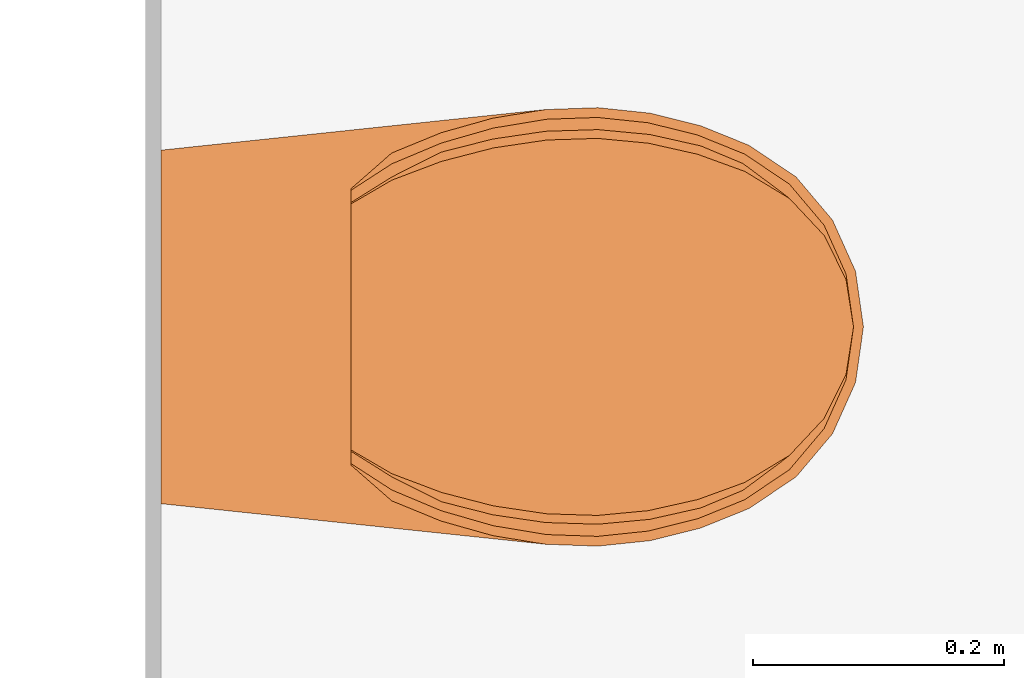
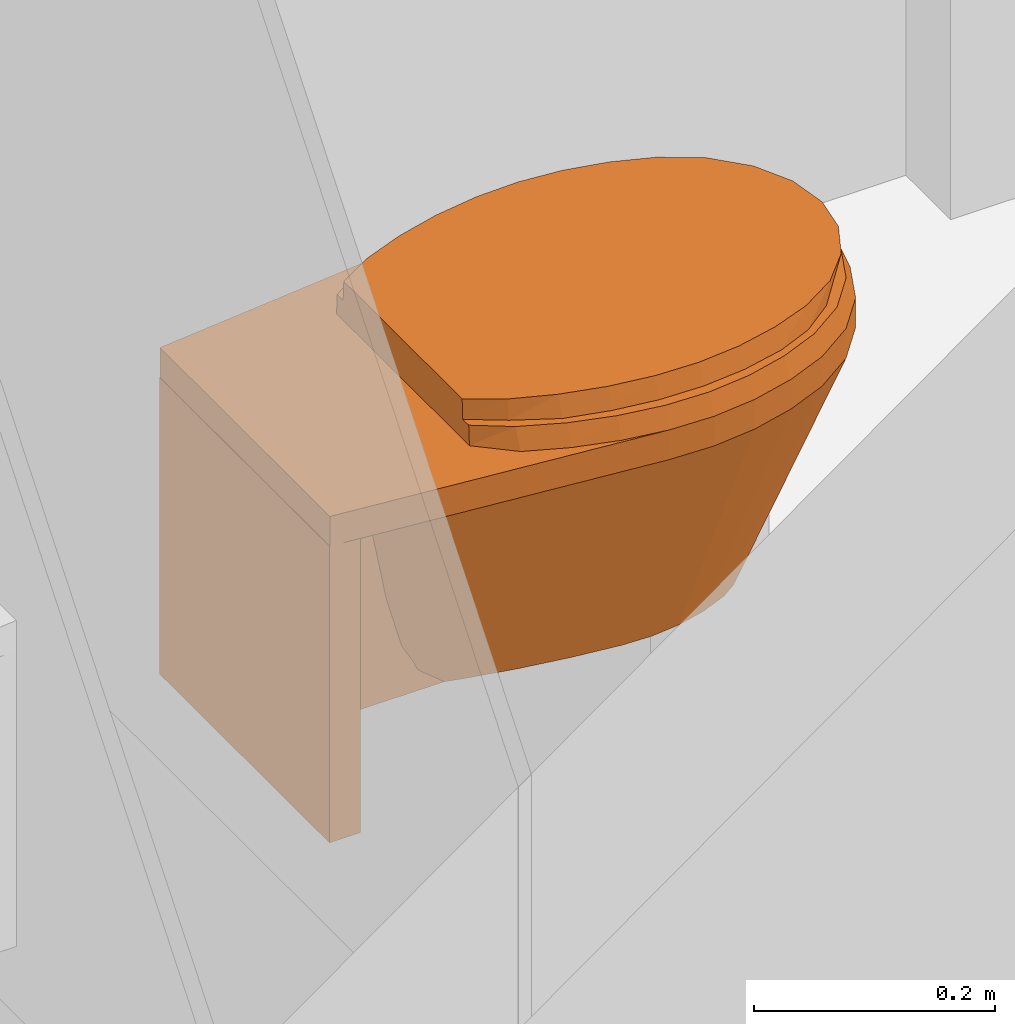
# One storey, part 90 of 99: 1 proxy.
"""IFC2X3 building model written with IfcOpenShell, lengths in millimetres."""

from ifc_helpers import new_model, entity, si_unit, converted_unit, derived_unit, money_unit, direction, frame, origin_with_axes, place, context, subcontext, project, spatial, open_shell, faceted_brep, surface_model, source, transform, mapped, type_object, type_shapes, element, save


model = new_model("IFC2X3")

# Units and contexts
model_context = context("Model", 3, precision=0.01, world=origin_with_axes(), true_north=direction((0.0, 1.0)))
body_context = subcontext(model_context, "Body", "Model", "MODEL_VIEW")
ifc_project = project(units=[si_unit("LENGTHUNIT", "METRE", prefix="MILLI"), si_unit("AREAUNIT", "SQUARE_METRE"), si_unit("VOLUMEUNIT", "CUBIC_METRE"), converted_unit("PLANEANGLEUNIT", "DEGREE", entity("IfcPlaneAngleMeasure", 0.0174532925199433), si_unit("PLANEANGLEUNIT", "RADIAN"), dimensions=[0, 0, 0, 0, 0, 0, 0]), money_unit("EUR"), converted_unit("TIMEUNIT", "Year", entity("IfcTimeMeasure", 31557600.0), si_unit("TIMEUNIT", "SECOND"), dimensions=[0, 0, 1, 0, 0, 0, 0]), si_unit("MASSUNIT", "GRAM", prefix="KILO"), si_unit("THERMODYNAMICTEMPERATUREUNIT", "DEGREE_CELSIUS"), si_unit("LUMINOUSINTENSITYUNIT", "LUMEN"), si_unit("ENERGYUNIT", "JOULE", prefix="MEGA"), derived_unit("THERMALCONDUCTANCEUNIT", [(si_unit("POWERUNIT", "WATT"), 1), (si_unit("LENGTHUNIT", "METRE"), -1), (si_unit("THERMODYNAMICTEMPERATUREUNIT", "KELVIN"), -1)]), derived_unit("SPECIFICHEATCAPACITYUNIT", [(si_unit("ENERGYUNIT", "JOULE"), 1), (si_unit("MASSUNIT", "GRAM", prefix="KILO"), -1), (si_unit("THERMODYNAMICTEMPERATUREUNIT", "KELVIN"), -1)]), derived_unit("MASSDENSITYUNIT", [(si_unit("MASSUNIT", "GRAM", prefix="KILO"), 1), (si_unit("VOLUMEUNIT", "CUBIC_METRE"), -1)])], contexts=[model_context])

# Site, building, storey
site_placement = place(None, origin_with_axes())
site = spatial("IfcSite", under=ifc_project, at=site_placement, Name="Site", CompositionType="ELEMENT")
building_placement = place(site_placement, origin_with_axes())
building = spatial("IfcBuilding", under=site, at=building_placement, Name="Naam gebouw", CompositionType="ELEMENT")
storey_placement = place(building_placement, frame((0.0, 0.0, 7650.0), z_axis=(0.0, 0.0, 1.0), x_axis=(1.0, 0.0, 0.0)))
storey = spatial("IfcBuildingStorey", under=building, at=storey_placement, Name="2e verdieping N", CompositionType="ELEMENT", Elevation=7650.0)

# Proxy
building_element_proxy_type = type_object("IfcBuildingElementProxyType", Name="Toilet 27", PredefinedType="NOTDEFINED")
shared_shape = source(origin_with_axes(), body_context, "Body", "SurfaceModel", [
    faceted_brep([(141.0283315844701, -29.31865370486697, 69.99999999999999), (-141.0283315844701, -29.31865370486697, 69.99999999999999), (-141.0283315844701, 0.4949050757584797, 69.99999999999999), (141.0283315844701, 0.4949050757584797, 69.99999999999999), (141.0283315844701, -29.31865370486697, 370.0), (-141.0283315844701, -29.31865370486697, 370.0), (-141.0283315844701, 0.4949050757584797, 370.0), (141.0283315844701, 0.4949050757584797, 370.0)], [[[0, 1, 2, 3]], [[1, 0, 4, 5]], [[2, 1, 5, 6]], [[3, 2, 6, 7]], [[0, 3, 7, 4]], [[5, 4, 7, 6]]]),
    faceted_brep([(0.0, -70.89167385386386, 370.0), (29.22322490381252, -74.34010881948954, 370.0), (48.96817068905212, -81.5929972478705, 370.0), (48.96817068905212, -29.31865370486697, 370.0), (-48.96817068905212, -29.31865370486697, 370.0), (-48.96817068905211, -81.5929972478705, 370.0), (-29.22322490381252, -74.34010881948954, 370.0), (13.70129415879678, -104.9506834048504, 120.0), (48.96817068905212, -91.42153264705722, 305.9289314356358), (25.9903462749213, -111.5027098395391, 120.0), (48.96817068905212, -132.9294031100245, 150.8349994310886), (48.96817068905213, -162.8654130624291, 120.0), (48.96817068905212, -29.31865370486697, 120.0), (48.96817068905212, -98.32654517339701, 277.0091093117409), (48.96817068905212, -115.6023982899, 192.7960154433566), (48.96817068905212, -128.1614437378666, 166.4745945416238), (-48.96817068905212, -29.31865370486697, 120.0), (-48.96817068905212, -88.2509938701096, 324.1614695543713), (-48.96817068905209, -162.865413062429, 120.0), (-48.96817068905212, -136.958898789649, 141.3134093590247), (-48.96817068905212, -132.9294031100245, 150.8349994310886), (-48.96817068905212, -121.830119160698, 170.4964192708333), (-48.96817068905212, -115.6023982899, 192.7960154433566), (-48.96817068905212, -107.0876370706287, 223.4625696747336), (-48.96817068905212, -91.42153264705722, 305.9289314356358), (-13.70129415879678, -104.9506834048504, 120.0), (0.0, -102.6888280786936, 120.0), (35.59888072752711, -121.6691333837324, 120.0), (41.53676110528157, -134.4015105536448, 120.0), (-41.53676110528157, -134.4015105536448, 120.0), (-25.9903462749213, -111.5027098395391, 120.0), (-35.59888072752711, -121.6691333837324, 120.0)], [[[0, 1, 2, 3, 4, 5, 6]], [[1, 0, 7]], [[8, 2, 1, 9]], [[10, 11, 12, 3, 2, 8, 13, 14, 15]], [[3, 12, 16, 4]], [[17, 5, 4, 16, 18, 19, 20, 21, 22, 23, 24]], [[6, 5, 17, 25]], [[0, 6, 26]], [[26, 7, 0]], [[7, 9, 1]], [[13, 8, 9, 27]], [[11, 10, 28]], [[29, 18, 16, 12, 11, 28, 27, 9, 7, 26, 25, 30, 31]], [[14, 13, 27]], [[15, 14, 27, 28]], [[10, 15, 28]], [[18, 29, 19]], [[20, 19, 29]], [[29, 31, 21, 20]], [[22, 21, 31]], [[31, 30, 23, 22]], [[24, 23, 30]], [[30, 25, 17, 24]], [[25, 26, 6]]]),
    surface_model("IfcShellBasedSurfaceModel", [(17.69122070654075, -459.020482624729, 120.0), (34.02798181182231, -451.6883347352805, 120.0), (85.18209164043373, -535.3680377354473, 370.0), (0.0, -461.5278029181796, 120.0), (-17.69122070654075, -459.020482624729, 120.0), (-34.02798181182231, -451.6883347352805, 120.0), (-47.75865687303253, -440.0938417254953, 120.0), (-57.83238894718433, -425.1254476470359, 120.0), (-68.23029031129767, -399.4182096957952, 120.0), (-74.94382651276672, -372.4786779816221, 120.0), (-77.83882476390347, -344.8464779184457, 120.0), (-76.85750262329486, -317.0761416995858, 120.0), (-70.97348723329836, -270.8651255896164, 120.0), (-63.11507520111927, -224.9582077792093, 120.0), (-53.29597761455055, -179.4418475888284, 120.0), (-41.53676110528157, -134.4015105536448, 120.0), (-35.59888072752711, -121.6691333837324, 120.0), (-25.9903462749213, -111.5027098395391, 120.0), (-13.70129415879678, -104.9506834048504, 120.0), (0.0, -102.6888280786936, 120.0), (13.70129415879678, -104.9506834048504, 120.0), (25.9903462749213, -111.5027098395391, 120.0), (35.59888072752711, -121.6691333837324, 120.0), (41.53676110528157, -134.4015105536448, 120.0), (53.29597761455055, -179.4418475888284, 120.0), (63.11507520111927, -224.9582077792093, 120.0), (70.97348723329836, -270.8651255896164, 120.0), (76.85750262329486, -317.0761416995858, 120.0), (77.83882476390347, -344.845484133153, 120.0), (74.94382651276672, -372.4786779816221, 120.0), (68.23029031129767, -399.4182096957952, 120.0), (57.83238894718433, -425.1254476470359, 120.0), (47.75865687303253, -440.0938417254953, 120.0), (119.554809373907, -506.3435444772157, 370.0), (44.28681357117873, -553.722258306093, 370.0), (0.0, -560.0, 370.0), (-44.28681357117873, -553.722258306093, 370.0), (-85.18209164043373, -535.3680377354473, 370.0), (-119.554809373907, -506.3435444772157, 370.0), (-144.7734172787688, -468.8718762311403, 370.0), (-160.3893669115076, -430.2603362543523, 370.0), (-170.4738719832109, -389.7973742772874, 370.0), (-174.8222455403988, -348.2949128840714, 370.0), (-173.3473242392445, -306.5847503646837, 370.0), (-164.8111927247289, -257.295981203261, 370.0), (-149.8396642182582, -209.614162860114, 370.0), (-128.7050017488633, -164.3989196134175, 370.0), (-101.7881776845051, -122.4661491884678, 370.0), (-81.51241692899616, -100.8344247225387, 370.0), (-56.88632388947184, -84.50156343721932, 370.0), (-29.22322490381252, -74.34010881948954, 370.0), (0.0, -70.89167385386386, 370.0), (29.22322490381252, -74.34010881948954, 370.0), (56.88632388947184, -84.50156343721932, 370.0), (81.51241692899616, -100.8344247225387, 370.0), (101.7881776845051, -122.4661491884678, 370.0), (128.7050017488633, -164.3989196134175, 370.0), (149.8396642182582, -209.614162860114, 370.0), (164.8111927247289, -257.2969749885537, 370.0), (173.3473242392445, -306.5847503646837, 370.0), (174.8222455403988, -348.2949128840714, 370.0), (170.4738719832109, -389.7973742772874, 370.0), (160.3903462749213, -430.2603362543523, 370.0), (144.7734172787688, -468.8718762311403, 370.0)], [open_shell([[[0, 1, 2]], [[0, 3, 4, 5, 6, 7, 8, 9, 10, 11, 12, 13, 14, 15, 16, 17, 18, 19, 20, 21, 22, 23, 24, 25, 26, 27, 28, 29, 30, 31, 32, 1]], [[1, 33, 2]], [[0, 2, 34]], [[3, 0, 34]], [[4, 3, 35]], [[5, 4, 36]], [[6, 5, 37]], [[7, 6, 38]], [[8, 7, 39]], [[9, 8, 40]], [[10, 9, 41]], [[11, 10, 42]], [[12, 11, 43]], [[13, 12, 44]], [[14, 13, 45]], [[15, 14, 46]], [[16, 15, 47]], [[17, 16, 48]], [[18, 17, 49]], [[19, 18, 50]], [[20, 19, 51]], [[21, 20, 52]], [[22, 21, 53]], [[23, 22, 54]], [[24, 23, 55]], [[25, 24, 56]], [[26, 25, 57]], [[27, 26, 58]], [[28, 27, 59]], [[29, 28, 60]], [[30, 29, 61]], [[31, 30, 62]], [[32, 31, 63]], [[1, 32, 33]], [[3, 34, 35]], [[4, 35, 36]], [[5, 36, 37]], [[6, 37, 38]], [[7, 38, 39]], [[8, 39, 40]], [[9, 40, 41]], [[10, 41, 42]], [[11, 42, 43]], [[12, 43, 44]], [[13, 44, 45]], [[14, 45, 46]], [[15, 46, 47]], [[16, 47, 48]], [[17, 48, 49]], [[18, 49, 50]], [[19, 50, 51]], [[20, 51, 52]], [[21, 52, 53]], [[22, 53, 54]], [[23, 54, 55]], [[24, 55, 56]], [[25, 56, 57]], [[26, 57, 58]], [[27, 58, 59]], [[28, 59, 60]], [[29, 60, 61]], [[30, 61, 62]], [[31, 62, 63]], [[32, 63, 33]]])]),
    faceted_brep([(-173.3473242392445, -306.5847503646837, 370.0), (-174.8222455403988, -348.2949128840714, 370.0), (-174.8222455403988, -348.2949128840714, 400.0), (-173.3473242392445, -306.5847503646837, 400.0), (-140.9734872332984, 0.0, 370.0), (140.975445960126, 0.0, 370.0), (173.3473242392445, -306.5847503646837, 370.0), (174.8222455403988, -348.2949128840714, 370.0), (170.4738719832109, -389.7973742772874, 370.0), (160.3903462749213, -430.2603362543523, 370.0), (144.7734172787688, -468.8718762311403, 370.0), (119.554809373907, -506.3435444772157, 370.0), (85.18209164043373, -535.3680377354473, 370.0), (44.28681357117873, -553.722258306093, 370.0), (0.0, -560.0, 370.0), (-44.28681357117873, -553.722258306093, 370.0), (-85.18209164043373, -535.3680377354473, 370.0), (-119.554809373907, -506.3435444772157, 370.0), (-144.7734172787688, -468.8718762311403, 370.0), (-160.3893669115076, -430.2603362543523, 370.0), (-170.4738719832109, -389.7973742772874, 370.0), (144.5021336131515, -309.7211367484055, 370.0), (129.3885974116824, -258.2838037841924, 370.0), (97.13522210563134, -215.7418429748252, 370.0), (52.01301154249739, -187.731010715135, 370.0), (0.0, -177.9630950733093, 370.0), (-52.01301154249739, -187.731010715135, 370.0), (-97.13522210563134, -215.7418429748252, 370.0), (-129.3885974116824, -258.2838037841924, 370.0), (-144.5021336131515, -309.7211367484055, 370.0), (-145.8291710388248, -347.2633637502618, 370.0), (-141.914655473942, -384.6197529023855, 370.0), (-132.838894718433, -421.0399963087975, 370.0), (-118.7820916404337, -455.7936617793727, 370.0), (-98.09206016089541, -486.5383973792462, 370.0), (-69.89031129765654, -510.3524743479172, 370.0), (-36.33634137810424, -525.411302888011, 370.0), (0.0, -530.5620920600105, 370.0), (36.33634137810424, -525.411302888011, 370.0), (69.89031129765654, -510.3524743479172, 370.0), (98.09206016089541, -486.5383973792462, 370.0), (118.7820916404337, -455.7936617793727, 370.0), (132.838894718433, -421.0399963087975, 370.0), (141.914655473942, -384.6197529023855, 370.0), (145.8291710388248, -347.2633637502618, 370.0), (-170.4738719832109, -389.7973742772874, 400.0), (-160.3893669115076, -430.2603362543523, 400.0), (-144.7734172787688, -468.8718762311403, 400.0), (-119.554809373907, -506.3435444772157, 400.0), (-85.18209164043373, -535.3680377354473, 400.0), (-44.28681357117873, -553.722258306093, 400.0), (0.0, -560.0, 400.0), (44.28681357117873, -553.722258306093, 400.0), (85.18209164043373, -535.3680377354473, 400.0), (119.554809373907, -506.3435444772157, 400.0), (144.7734172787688, -468.8718762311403, 400.0), (160.3903462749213, -430.2603362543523, 400.0), (170.4738719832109, -389.7973742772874, 400.0), (174.8222455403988, -348.2949128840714, 400.0), (173.3473242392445, -306.5847503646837, 400.0), (140.975445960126, 0.0, 400.0), (-140.9734872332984, 0.0, 400.0), (144.5021336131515, -309.7211367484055, 400.0), (145.8291710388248, -347.2633637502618, 400.0), (141.914655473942, -384.6197529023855, 400.0), (132.838894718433, -421.0399963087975, 400.0), (118.7820916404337, -455.7936617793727, 400.0), (98.09206016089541, -486.5383973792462, 400.0), (69.89031129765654, -510.3524743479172, 400.0), (36.33634137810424, -525.411302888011, 400.0), (0.0, -530.5620920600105, 400.0), (-36.33634137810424, -525.411302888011, 400.0), (-69.89031129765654, -510.3524743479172, 400.0), (-98.09206016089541, -486.5383973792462, 400.0), (-118.7820916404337, -455.7936617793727, 400.0), (-132.838894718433, -421.0399963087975, 400.0), (-141.914655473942, -384.6197529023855, 400.0), (-145.8291710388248, -347.2633637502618, 400.0), (-144.5021336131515, -309.7211367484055, 400.0), (-129.3885974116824, -258.2838037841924, 400.0), (-97.13522210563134, -215.7418429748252, 400.0), (-52.01301154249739, -187.731010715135, 400.0), (0.0, -177.9630950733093, 400.0), (52.01301154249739, -187.731010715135, 400.0), (97.13522210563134, -215.7418429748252, 400.0), (129.3885974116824, -258.2838037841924, 400.0)], [[[0, 1, 2, 3]], [[0, 4, 5, 6, 7, 8, 9, 10, 11, 12, 13, 14, 15, 16, 17, 18, 19, 20, 1], [21, 22, 23, 24, 25, 26, 27, 28, 29, 30, 31, 32, 33, 34, 35, 36, 37, 38, 39, 40, 41, 42, 43, 44]], [[1, 20, 45, 2]], [[3, 2, 45, 46, 47, 48, 49, 50, 51, 52, 53, 54, 55, 56, 57, 58, 59, 60, 61], [62, 63, 64, 65, 66, 67, 68, 69, 70, 71, 72, 73, 74, 75, 76, 77, 78, 79, 80, 81, 82, 83, 84, 85]], [[4, 0, 3, 61]], [[5, 4, 61, 60]], [[6, 5, 60, 59]], [[7, 6, 59, 58]], [[8, 7, 58, 57]], [[9, 8, 57, 56]], [[10, 9, 56, 55]], [[11, 10, 55, 54]], [[12, 11, 54, 53]], [[13, 12, 53, 52]], [[14, 13, 52, 51]], [[15, 14, 51, 50]], [[16, 15, 50, 49]], [[17, 16, 49, 48]], [[18, 17, 48, 47]], [[19, 18, 47, 46]], [[20, 19, 46, 45]], [[22, 21, 62, 85]], [[23, 22, 85, 84]], [[24, 23, 84, 83]], [[25, 24, 83, 82]], [[26, 25, 82, 81]], [[27, 26, 81, 80]], [[28, 27, 80, 79]], [[29, 28, 79, 78]], [[30, 29, 78, 77]], [[31, 30, 77, 76]], [[32, 31, 76, 75]], [[33, 32, 75, 74]], [[34, 33, 74, 73]], [[35, 34, 73, 72]], [[36, 35, 72, 71]], [[37, 36, 71, 70]], [[38, 37, 70, 69]], [[39, 38, 69, 68]], [[40, 39, 68, 67]], [[41, 40, 67, 66]], [[42, 41, 66, 65]], [[43, 42, 65, 64]], [[44, 43, 64, 63]], [[21, 44, 63, 62]]]),
    surface_model("IfcShellBasedSurfaceModel", [(16.80665967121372, -465.7329258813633, 220.0), (32.3265827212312, -460.0138505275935, 220.0), (80.92298705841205, -525.2840188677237, 370.0), (0.0, -467.6886357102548, 220.0), (-16.80665967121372, -465.7329258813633, 220.0), (-32.3265827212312, -460.0138505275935, 220.0), (-45.3707240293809, -450.970145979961, 220.0), (-54.94076949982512, -439.2947985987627, 220.0), (-64.81877579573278, -419.2431529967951, 220.0), (-71.1966351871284, -398.23031825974, 220.0), (-73.9468835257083, -376.6772022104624, 220.0), (-73.01462749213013, -355.0163399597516, 220.0), (-67.42481287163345, -318.9717473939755, 220.0), (-59.95932144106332, -283.164351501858, 220.0), (-50.63117873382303, -247.6615905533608, 220.0), (-39.4599230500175, -212.5301276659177, 220.0), (-33.81893669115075, -202.598873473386, 220.0), (-24.69082896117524, -194.6690631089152, 220.0), (-13.01622945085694, -189.558482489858, 220.0), (0.0, -187.7942353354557, 220.0), (13.01622945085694, -189.558482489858, 220.0), (24.69082896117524, -194.6690631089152, 220.0), (33.81893669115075, -202.598873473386, 220.0), (39.4599230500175, -212.5301276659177, 220.0), (50.63117873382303, -247.6615905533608, 220.0), (59.95932144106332, -283.164351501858, 220.0), (67.42481287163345, -318.9717473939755, 220.0), (73.01462749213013, -355.0163399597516, 220.0), (73.9468835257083, -376.6764270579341, 220.0), (71.1966351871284, -398.23031825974, 220.0), (64.81877579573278, -419.2431529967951, 220.0), (54.94076949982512, -439.2947985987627, 220.0), (45.3707240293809, -450.970145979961, 220.0), (113.5770689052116, -502.644914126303, 370.0), (42.0724728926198, -539.6003109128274, 370.0), (0.0, -544.4969494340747, 370.0), (-42.0724728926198, -539.6003109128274, 370.0), (-80.92298705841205, -525.2840188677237, 370.0), (-113.5770689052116, -502.644914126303, 370.0), (-137.5347464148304, -473.4170128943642, 370.0), (-152.3698985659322, -443.3000117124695, 370.0), (-161.9501783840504, -411.7389013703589, 370.0), (-166.0811332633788, -379.3669814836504, 370.0), (-164.6799580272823, -346.833054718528, 370.0), (-156.5706330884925, -308.3878147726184, 370.0), (-142.3476810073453, -271.1959964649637, 370.0), (-122.2697516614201, -235.9281067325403, 370.0), (-96.69876880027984, -203.2205458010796, 370.0), (-77.43679608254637, -186.3478007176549, 370.0), (-54.04200769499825, -173.6081689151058, 370.0), (-27.7620636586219, -165.6822343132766, 370.0), (0.0, -162.9924550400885, 370.0), (27.7620636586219, -165.6822343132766, 370.0), (54.04200769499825, -173.6081689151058, 370.0), (77.43679608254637, -186.3478007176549, 370.0), (96.69876880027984, -203.2205458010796, 370.0), (122.2697516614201, -235.9281067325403, 370.0), (142.3476810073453, -271.1959964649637, 370.0), (156.5706330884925, -308.3885899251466, 370.0), (164.6799580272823, -346.833054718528, 370.0), (166.0811332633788, -379.3669814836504, 370.0), (161.9501783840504, -411.7389013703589, 370.0), (152.3708289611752, -443.3000117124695, 370.0), (137.5347464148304, -473.4170128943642, 370.0)], [open_shell([[[0, 1, 2]], [[0, 3, 4, 5, 6, 7, 8, 9, 10, 11, 12, 13, 14, 15, 16, 17, 18, 19, 20, 21, 22, 23, 24, 25, 26, 27, 28, 29, 30, 31, 32, 1]], [[1, 33, 2]], [[0, 2, 34]], [[3, 0, 34]], [[4, 3, 35]], [[5, 4, 36]], [[6, 5, 37]], [[7, 6, 38]], [[8, 7, 39]], [[9, 8, 40]], [[10, 9, 41]], [[11, 10, 42]], [[12, 11, 43]], [[13, 12, 44]], [[14, 13, 45]], [[15, 14, 46]], [[16, 15, 47]], [[17, 16, 48]], [[18, 17, 49]], [[19, 18, 50]], [[20, 19, 51]], [[21, 20, 52]], [[22, 21, 53]], [[23, 22, 54]], [[24, 23, 55]], [[25, 24, 56]], [[26, 25, 57]], [[27, 26, 58]], [[28, 27, 59]], [[29, 28, 60]], [[30, 29, 61]], [[31, 30, 62]], [[32, 31, 63]], [[1, 32, 33]], [[3, 34, 35]], [[4, 35, 36]], [[5, 36, 37]], [[6, 37, 38]], [[7, 38, 39]], [[8, 39, 40]], [[9, 40, 41]], [[10, 41, 42]], [[11, 42, 43]], [[12, 43, 44]], [[13, 44, 45]], [[14, 45, 46]], [[15, 46, 47]], [[16, 47, 48]], [[17, 48, 49]], [[18, 49, 50]], [[19, 50, 51]], [[20, 51, 52]], [[21, 52, 53]], [[22, 53, 54]], [[23, 54, 55]], [[24, 55, 56]], [[25, 56, 57]], [[26, 57, 58]], [[27, 58, 59]], [[28, 59, 60]], [[29, 60, 61]], [[30, 61, 62]], [[31, 62, 63]], [[32, 63, 33]]])]),
    faceted_brep([(0.0, -560.0, 400.0), (-44.28681357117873, -553.722258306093, 400.0), (-85.18209164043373, -535.3680377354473, 400.0), (-119.554809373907, -506.3435444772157, 400.0), (-144.7734172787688, -468.8718762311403, 400.0), (-160.3893669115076, -430.2603362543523, 400.0), (-170.4738719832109, -389.7973742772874, 400.0), (-174.8222455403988, -348.2949128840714, 400.0), (-173.3473242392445, -306.5847503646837, 400.0), (-166.4663168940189, -264.4263906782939, 400.0), (-154.8716334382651, -223.3443004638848, 400.0), (-138.7150752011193, -183.8810864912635, 400.0), (-110.1926579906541, -151.3163525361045, 400.0), (110.1926579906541, -151.3163525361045, 400.0), (138.7150752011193, -183.8810864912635, 400.0), (154.8716334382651, -223.3443004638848, 400.0), (166.4663168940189, -264.4263906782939, 400.0), (173.3473242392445, -306.5847503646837, 400.0), (174.8222455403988, -348.2949128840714, 400.0), (170.4738719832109, -389.7973742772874, 400.0), (160.3903462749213, -430.2603362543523, 400.0), (144.7734172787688, -468.8718762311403, 400.0), (119.554809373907, -506.3435444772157, 400.0), (85.18209164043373, -535.3680377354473, 400.0), (44.28681357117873, -553.722258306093, 400.0), (87.07689659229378, -411.9963613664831, 400.0), (94.51085540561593, -382.2763031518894, 400.0), (97.71606496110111, -351.7983255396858, 400.0), (96.61425296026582, -320.7429308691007, 400.0), (90.99294096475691, -286.7942733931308, 400.0), (81.32886310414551, -253.3381075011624, 400.0), (68.75448552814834, -223.4663237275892, 400.0), (-68.75412876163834, -223.4663237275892, 400.0), (-81.3289539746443, -253.3384220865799, 400.0), (-90.99294096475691, -286.7942733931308, 400.0), (-96.61425296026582, -320.7429308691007, 400.0), (-97.71606496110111, -351.7983255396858, 400.0), (-94.51085540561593, -382.2763031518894, 400.0), (-87.07689659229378, -411.9963613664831, 400.0), (-76.4888004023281, -438.0775703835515, 400.0), (-62.06856874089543, -459.4262123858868, 400.0), (-44.26109835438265, -474.4067566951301, 400.0), (-23.02579943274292, -483.9023013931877, 400.0), (0.0, -487.1544663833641, 400.0), (23.02579943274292, -483.9023013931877, 400.0), (44.26109835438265, -474.4067566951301, 400.0), (62.06856874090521, -459.4262123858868, 400.0), (76.4888004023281, -438.0775703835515, 400.0), (0.0, -552.0944379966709, 420.0000000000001), (-42.15180132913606, -546.1188070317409, 420.0000000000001), (-81.07562084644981, -528.649055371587, 420.0000000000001), (-113.7912556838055, -501.0248055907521, 420.0000000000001), (-137.7925148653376, -465.3598390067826, 420.0000000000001), (-152.9902763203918, -427.7848170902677, 420.0000000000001), (-162.8034977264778, -388.4070686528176, 420.0000000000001), (-167.0353270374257, -348.0176467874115, 420.0000000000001), (-165.6005596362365, -307.4274802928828, 420.0000000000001), (-158.5902763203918, -264.9332211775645, 420.0000000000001), (-146.6880727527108, -223.5758524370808, 420.0000000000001), (-130.06142007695, -183.9317695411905, 420.0000000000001), (-108.940468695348, -151.3163525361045, 420.0000000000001), (108.940468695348, -151.3163525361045, 420.0000000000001), (130.06142007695, -183.9307757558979, 420.0000000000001), (146.6880727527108, -223.5758524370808, 420.0000000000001), (158.5902763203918, -264.9332211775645, 420.0000000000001), (165.6005596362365, -307.4274802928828, 420.0000000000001), (167.0353270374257, -348.0176467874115, 420.0000000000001), (162.8034977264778, -388.4070686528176, 420.0000000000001), (152.9902763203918, -427.7848170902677, 420.0000000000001), (137.7925148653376, -465.3598390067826, 420.0000000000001), (113.7912556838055, -501.0248055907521, 420.0000000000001), (81.07562084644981, -528.649055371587, 420.0000000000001), (42.15180132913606, -546.1188070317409, 420.0000000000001), (87.07689659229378, -411.9963613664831, 420.0), (94.51085540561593, -382.2763031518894, 420.0), (97.71606496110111, -351.7983255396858, 420.0), (96.61425296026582, -320.7429308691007, 420.0), (90.99294096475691, -286.7942733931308, 420.0), (81.32886310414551, -253.3381075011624, 420.0), (68.75448552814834, -223.4663237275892, 420.0), (-68.75412876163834, -223.4663237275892, 420.0000000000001), (-81.3289539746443, -253.3384220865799, 420.0000000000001), (-90.99294096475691, -286.7942733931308, 420.0000000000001), (-96.61425296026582, -320.7429308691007, 420.0000000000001), (-97.71606496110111, -351.7983255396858, 420.0000000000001), (-94.51085540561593, -382.2763031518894, 420.0000000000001), (-87.07689659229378, -411.9963613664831, 420.0000000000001), (-76.4888004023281, -438.0775703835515, 420.0000000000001), (-62.06856874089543, -459.4262123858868, 420.0000000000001), (-44.26109835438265, -474.4067566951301, 420.0000000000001), (-23.02579943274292, -483.9023013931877, 420.0000000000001), (0.0, -487.1544663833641, 420.0), (23.02579943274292, -483.9023013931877, 420.0), (44.26109835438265, -474.4067566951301, 420.0), (62.06856874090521, -459.4262123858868, 420.0), (76.4888004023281, -438.0775703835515, 420.0)], [[[0, 1, 2, 3, 4, 5, 6, 7, 8, 9, 10, 11, 12, 13, 14, 15, 16, 17, 18, 19, 20, 21, 22, 23, 24], [25, 26, 27, 28, 29, 30, 31, 32, 33, 34, 35, 36, 37, 38, 39, 40, 41, 42, 43, 44, 45, 46, 47]], [[1, 0, 48]], [[2, 1, 49]], [[3, 2, 50]], [[4, 3, 51]], [[5, 4, 52]], [[6, 5, 53]], [[6, 54, 55, 7]], [[8, 7, 55]], [[9, 8, 56]], [[10, 9, 57]], [[11, 10, 58]], [[12, 11, 59]], [[12, 60, 61, 13]], [[14, 13, 61]], [[15, 14, 62]], [[16, 15, 63]], [[17, 16, 64]], [[18, 17, 65]], [[18, 66, 67, 19]], [[20, 19, 67]], [[20, 68, 69, 21]], [[22, 21, 69]], [[23, 22, 70]], [[24, 23, 71]], [[0, 24, 72]], [[73, 74, 26, 25]], [[74, 75, 27, 26]], [[75, 76, 28, 27]], [[76, 77, 29, 28]], [[77, 78, 30, 29]], [[78, 79, 31, 30]], [[79, 80, 32, 31]], [[80, 81, 33, 32]], [[81, 82, 34, 33]], [[82, 83, 35, 34]], [[83, 84, 36, 35]], [[84, 85, 37, 36]], [[85, 86, 38, 37]], [[86, 87, 39, 38]], [[87, 88, 40, 39]], [[88, 89, 41, 40]], [[89, 90, 42, 41]], [[90, 91, 43, 42]], [[91, 92, 44, 43]], [[92, 93, 45, 44]], [[93, 94, 46, 45]], [[94, 95, 47, 46]], [[95, 73, 25, 47]], [[0, 72, 48]], [[1, 48, 49]], [[2, 49, 50]], [[3, 50, 51]], [[4, 51, 52]], [[5, 52, 53]], [[6, 53, 54]], [[54, 53, 52, 51, 50, 49, 48, 72, 71, 70, 69, 68, 67, 66, 65, 64, 63, 62, 61, 60, 59, 58, 57, 56, 55], [77, 76, 75, 74, 73, 95, 94, 93, 92, 91, 90, 89, 88, 87, 86, 85, 84, 83, 82, 81, 80, 79, 78]], [[8, 55, 56]], [[9, 56, 57]], [[10, 57, 58]], [[11, 58, 59]], [[12, 59, 60]], [[14, 61, 62]], [[15, 62, 63]], [[16, 63, 64]], [[17, 64, 65]], [[18, 65, 66]], [[20, 67, 68]], [[22, 69, 70]], [[23, 70, 71]], [[24, 71, 72]]]),
    faceted_brep([(-107.5993284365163, -494.4181209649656, 420.0000000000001), (-76.66388247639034, -519.4674730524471, 420.0000000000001), (-72.96805876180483, -528.649055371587, 440.0000000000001), (-130.2960755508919, -463.9029497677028, 420.0000000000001), (-144.3504302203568, -430.2603362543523, 420.0000000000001), (-153.4264847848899, -389.7973742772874, 420.0000000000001), (-157.3400209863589, -348.2949128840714, 420.0000000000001), (-156.01259181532, -306.5847503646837, 420.0000000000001), (-149.819685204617, -264.4263906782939, 420.0000000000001), (-139.3844700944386, -223.3443004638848, 420.0000000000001), (-119.5550052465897, -183.8810864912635, 420.0000000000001), (-99.17339219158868, -151.3163525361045, 420.0000000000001), (99.17339219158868, -151.3163525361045, 420.0000000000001), (119.5550052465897, -183.8810864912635, 420.0000000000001), (139.3844700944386, -223.3443004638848, 420.0000000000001), (149.819685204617, -264.4263906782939, 420.0000000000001), (156.01259181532, -306.5847503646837, 420.0000000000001), (157.3400209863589, -348.2949128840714, 420.0000000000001), (153.4264847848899, -389.7973742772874, 420.0000000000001), (144.3513116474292, -430.2603362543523, 420.0000000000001), (130.2960755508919, -463.9029497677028, 420.0000000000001), (107.5993284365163, -494.4181209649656, 420.0000000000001), (76.66388247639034, -519.4674730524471, 420.0000000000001), (39.85813221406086, -538.8154789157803, 420.0000000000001), (0.0, -545.0932206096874, 420.0000000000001), (-39.85813221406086, -538.8154789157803, 420.0000000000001), (-37.93662119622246, -546.1188070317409, 440.0000000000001), (-102.412130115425, -501.0248055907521, 440.0000000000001), (-124.0132633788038, -465.3598390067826, 440.0000000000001), (-137.6912486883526, -427.7848170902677, 440.0000000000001), (-146.52314795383, -388.4070686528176, 440.0000000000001), (-150.3317943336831, -348.0176467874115, 440.0000000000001), (-149.0405036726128, -307.4274802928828, 440.0000000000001), (-142.7312486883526, -264.9332211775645, 440.0000000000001), (-132.0192654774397, -223.5758524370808, 440.0000000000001), (-117.055278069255, -183.9317695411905, 440.0000000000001), (-98.04642182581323, -151.3163525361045, 440.0000000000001), (98.04642182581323, -151.3163525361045, 440.0000000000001), (117.055278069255, -183.9307757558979, 440.0000000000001), (132.0192654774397, -223.5758524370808, 440.0000000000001), (142.7312486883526, -264.9332211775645, 440.0000000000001), (149.0405036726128, -307.4274802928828, 440.0000000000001), (150.3317943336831, -348.0176467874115, 440.0000000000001), (146.52314795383, -388.4070686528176, 440.0000000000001), (137.6912486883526, -427.7848170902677, 440.0000000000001), (124.0132633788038, -465.3598390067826, 440.0000000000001), (102.412130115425, -501.0248055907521, 440.0000000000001), (72.96805876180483, -528.649055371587, 440.0000000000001), (37.93662119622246, -546.1188070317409, 440.0000000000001), (0.0, -552.0944379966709, 440.0000000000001)], [[[0, 1, 2]], [[0, 3, 4, 5, 6, 7, 8, 9, 10, 11, 12, 13, 14, 15, 16, 17, 18, 19, 20, 21, 22, 23, 24, 25, 1]], [[1, 26, 2]], [[0, 2, 27]], [[3, 0, 27]], [[4, 3, 28]], [[5, 4, 29]], [[6, 5, 30, 31]], [[7, 6, 31]], [[8, 7, 32]], [[9, 8, 33]], [[10, 9, 34]], [[11, 10, 35]], [[12, 11, 36, 37]], [[13, 12, 37]], [[14, 13, 38]], [[15, 14, 39]], [[16, 15, 40]], [[17, 16, 41]], [[18, 17, 42, 43]], [[19, 18, 43]], [[20, 19, 44]], [[21, 20, 45]], [[22, 21, 46]], [[23, 22, 47]], [[24, 23, 48]], [[25, 24, 49]], [[1, 25, 26]], [[27, 2, 26, 49, 48, 47, 46, 45, 44, 43, 42, 41, 40, 39, 38, 37, 36, 35, 34, 33, 32, 31, 30, 29, 28]], [[3, 27, 28]], [[4, 28, 29]], [[5, 29, 30]], [[7, 31, 32]], [[8, 32, 33]], [[9, 33, 34]], [[10, 34, 35]], [[11, 35, 36]], [[13, 37, 38]], [[14, 38, 39]], [[15, 39, 40]], [[16, 40, 41]], [[17, 41, 42]], [[19, 43, 44]], [[20, 44, 45]], [[21, 45, 46]], [[22, 46, 47]], [[23, 47, 48]], [[24, 48, 49]], [[25, 49, 26]]]),
])
type_shapes(building_element_proxy_type, [shared_shape])
proxy_placement = place(storey_placement, frame((15862.5, 18331.42315075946, 0.0), z_axis=(0.0, 0.0, 1.0), x_axis=(0.0, 1.0, 0.0)))
element("IfcBuildingElementProxy", 1, at=proxy_placement, inside=storey, type_object=building_element_proxy_type, Name="_Sanitair-x", context=body_context, shape_type="MappedRepresentation", body=[
    mapped(shared_shape, transform((0.0, 0.0, 0.0))),
])

save(model, "model.ifc")
